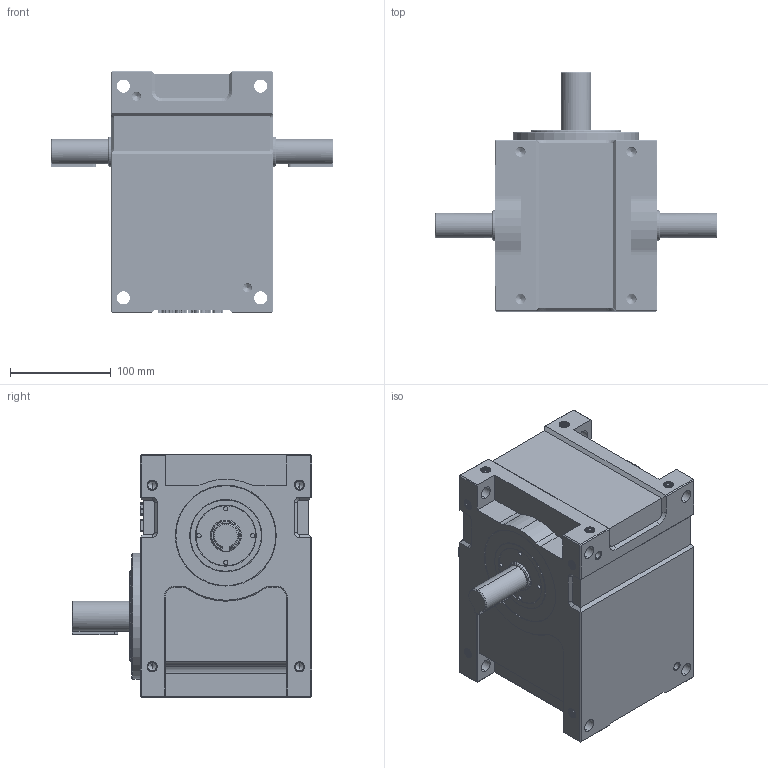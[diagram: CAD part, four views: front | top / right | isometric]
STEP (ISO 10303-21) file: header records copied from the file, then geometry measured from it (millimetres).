
FILE_DESCRIPTION (( 'STEP AP214' ), '1' );
FILE_NAME ('ER-RU80DE英锐凸轮分割器3D壳体和法兰面加销孔标准图纸(电话15062628977)AA.STEP', '2022-10-18T06:57:25', ( '微软用户' ), ( '微软中国' ), 'SwSTEP 2.0', 'SolidWorks 2017', '' );
FILE_SCHEMA (( 'AUTOMOTIVE_DESIGN' ));
Length unit declared in the file: millimetre
Products named in the file (1): ER-RU80DE英锐凸轮分割器3D壳体和法兰面加销孔标准图纸(电话15062628977)AA
Bounding box: 280 x 237 x 240 mm (x, y, z)
Volume: 6126350.4 mm3; surface area: 266735 mm2
Topology: 1 solids, 1 shells, 1578 faces, 4131 edges, 2642 vertices
Faces by surface type: cylinder 594, plane 450, bspline 360, cone 172, torus 2
Entity records: 110514 total; most frequent: CARTESIAN_POINT 76763, ORIENTED_EDGE 8158, DIRECTION 5184, EDGE_CURVE 4079, VERTEX_POINT 2642, LINE 1974, VECTOR 1974, EDGE_LOOP 1733
